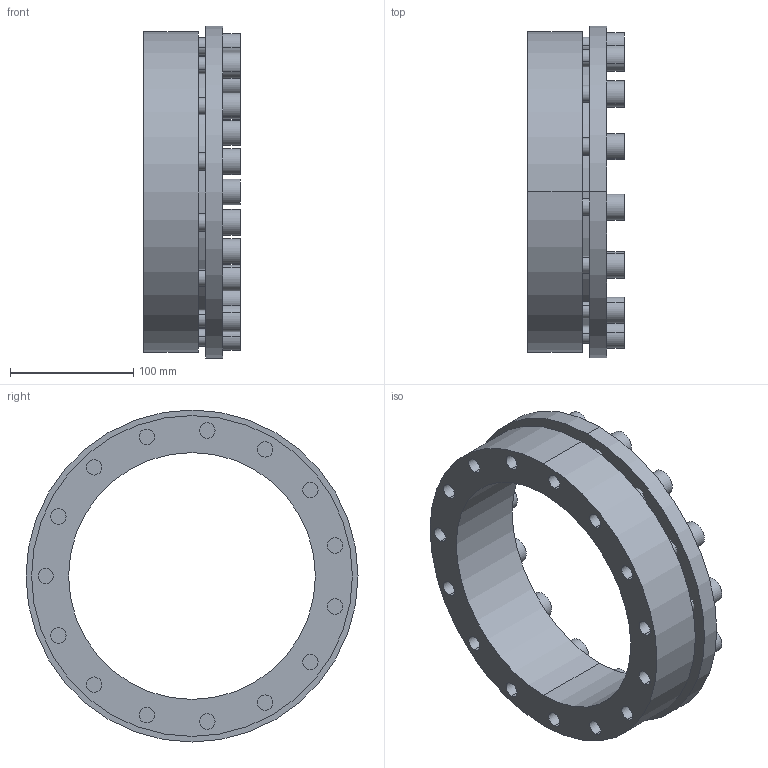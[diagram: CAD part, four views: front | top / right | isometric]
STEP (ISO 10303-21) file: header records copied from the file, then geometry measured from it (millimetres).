
FILE_DESCRIPTION (( 'STEP AP203' ), '1' );
FILE_NAME ('SES-200.step', '2009-09-29T16:41:25', ( 'USER' ), ( 'HOME' ), 'SwSTEP 2.0', 'SolidWorks 2007', '' );
FILE_SCHEMA (( 'CONFIG_CONTROL_DESIGN' ));
Length unit declared in the file: millimetre
Products named in the file (1): SES-200
Bounding box: 78 x 269 x 269 mm (x, y, z)
Volume: 1420195.5 mm3; surface area: 257754.2 mm2
Topology: 16 solids, 16 shells, 282 faces, 654 edges, 436 vertices
Faces by surface type: plane 154, cylinder 128
Entity records: 8265 total; most frequent: DIRECTION 1476, CARTESIAN_POINT 1373, ORIENTED_EDGE 1308, EDGE_CURVE 654, AXIS2_PLACEMENT_3D 539, VERTEX_POINT 436, LINE 398, VECTOR 398
